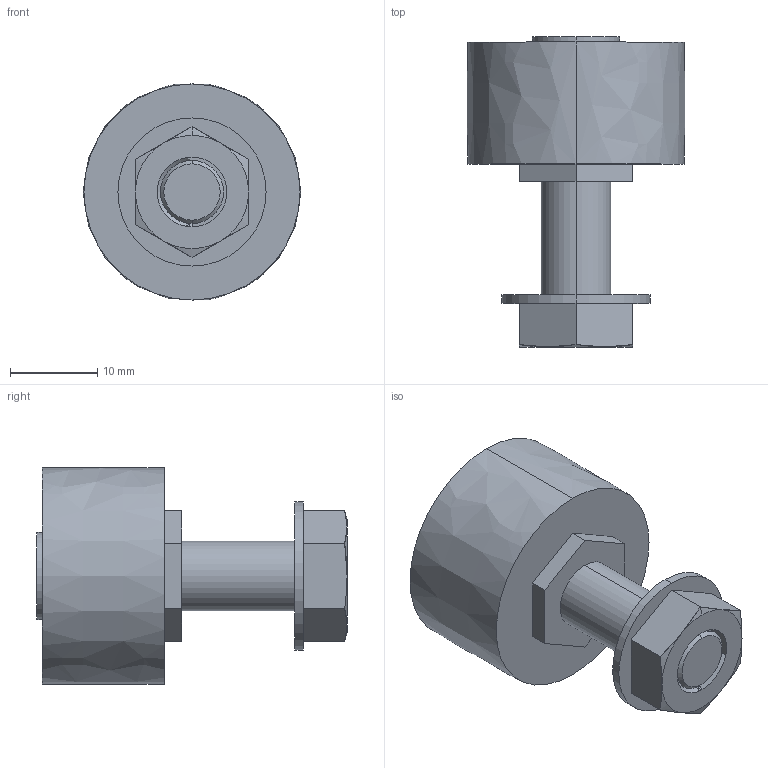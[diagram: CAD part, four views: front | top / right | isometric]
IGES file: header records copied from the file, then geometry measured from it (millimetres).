
Start section: 3D InterOp IGES (v. 2019 1.0.2), Spatial Corp. Copyright (c) 1999-2017.
Global section: file name: LR 25 C.igs; native system: Spatial Corp.; preprocessor: 3D InterOp GENERIC/IGES 3.0; author: Noname; organization: Noname; date: 20220628.172231; units: millimetre
Bounding box: 24.98 x 35.6 x 24.8 mm (x, y, z)
Surface area: 3153.9 mm2 (no closed solid volume)
Topology: 0 solids, 0 shells, 46 faces, 208 edges, 208 vertices
Faces by surface type: extrusion 27, revolution 17, bspline 2
